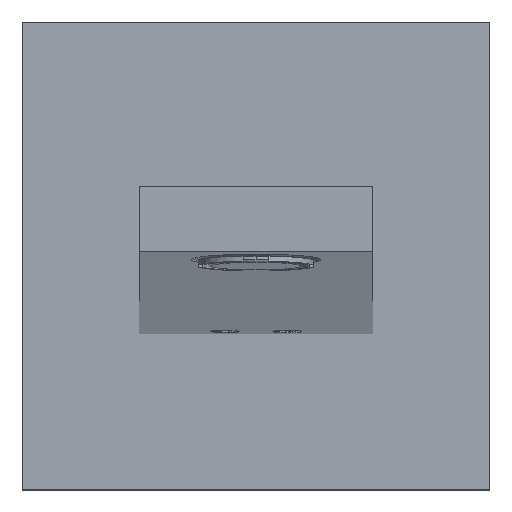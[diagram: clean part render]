
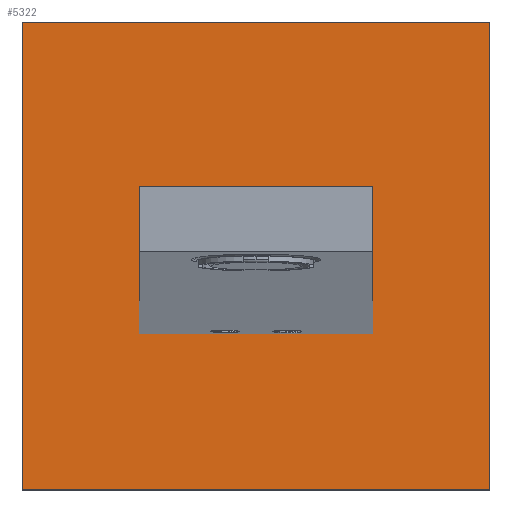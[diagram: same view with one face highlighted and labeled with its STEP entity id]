
A CAD part, top view. The second image highlights one B-rep face of the part: STEP entity #5322.
In plain terms, the highlighted planar face has unit normal (0, 0, 1).
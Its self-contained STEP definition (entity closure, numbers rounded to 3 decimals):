
#115=FACE_BOUND('',#754,.T.);
#116=FACE_BOUND('',#755,.T.);
#207=PLANE('',#5719);
#468=FACE_OUTER_BOUND('',#753,.T.);
#753=EDGE_LOOP('',(#4569,#4570,#4571,#4572));
#754=EDGE_LOOP('',(#4573,#4574));
#755=EDGE_LOOP('',(#4575,#4576));
#1004=CIRCLE('',#5712,8.5);
#1007=CIRCLE('',#5715,8.5);
#1010=CIRCLE('',#5720,2.25);
#1011=CIRCLE('',#5721,2.25);
#1535=LINE('',#20170,#1853);
#1538=LINE('',#20176,#1856);
#1541=LINE('',#20182,#1859);
#1544=LINE('',#20186,#1862);
#1853=VECTOR('',#6636,90.);
#1856=VECTOR('',#6641,90.);
#1859=VECTOR('',#6646,90.);
#1862=VECTOR('',#6651,90.);
#2415=VERTEX_POINT('',#20167);
#2416=VERTEX_POINT('',#20169);
#2418=VERTEX_POINT('',#20175);
#2420=VERTEX_POINT('',#20181);
#2421=VERTEX_POINT('',#20188);
#2422=VERTEX_POINT('',#20189);
#2427=VERTEX_POINT('',#20203);
#2428=VERTEX_POINT('',#20204);
#3159=EDGE_CURVE('',#2415,#2416,#1535,.T.);
#3162=EDGE_CURVE('',#2416,#2418,#1538,.T.);
#3165=EDGE_CURVE('',#2418,#2420,#1541,.T.);
#3168=EDGE_CURVE('',#2420,#2415,#1544,.T.);
#3169=EDGE_CURVE('',#2421,#2422,#1004,.T.);
#3173=EDGE_CURVE('',#2422,#2421,#1007,.T.);
#3176=EDGE_CURVE('',#2427,#2428,#1010,.T.);
#3177=EDGE_CURVE('',#2428,#2427,#1011,.T.);
#4569=ORIENTED_EDGE('',*,*,#3159,.F.);
#4570=ORIENTED_EDGE('',*,*,#3168,.F.);
#4571=ORIENTED_EDGE('',*,*,#3165,.F.);
#4572=ORIENTED_EDGE('',*,*,#3162,.F.);
#4573=ORIENTED_EDGE('',*,*,#3169,.F.);
#4574=ORIENTED_EDGE('',*,*,#3173,.F.);
#4575=ORIENTED_EDGE('',*,*,#3176,.T.);
#4576=ORIENTED_EDGE('',*,*,#3177,.T.);
#5322=ADVANCED_FACE('',(#468,#115,#116),#207,.T.);
#5712=AXIS2_PLACEMENT_3D('',#20190,#6654,#6655);
#5715=AXIS2_PLACEMENT_3D('',#20196,#6661,#6662);
#5719=AXIS2_PLACEMENT_3D('',#20202,#6669,#6670);
#5720=AXIS2_PLACEMENT_3D('',#20205,#6671,#6672);
#5721=AXIS2_PLACEMENT_3D('',#20206,#6673,#6674);
#6636=DIRECTION('',(0.,1.,0.));
#6641=DIRECTION('',(1.,0.,0.));
#6646=DIRECTION('',(0.,-1.,0.));
#6651=DIRECTION('',(-1.,0.,0.));
#6654=DIRECTION('center_axis',(0.,0.,1.));
#6655=DIRECTION('ref_axis',(1.,0.,0.));
#6661=DIRECTION('center_axis',(0.,0.,1.));
#6662=DIRECTION('ref_axis',(1.,0.,0.));
#6669=DIRECTION('center_axis',(0.,0.,1.));
#6670=DIRECTION('ref_axis',(1.,0.,0.));
#6671=DIRECTION('center_axis',(0.,0.,-1.));
#6672=DIRECTION('ref_axis',(-1.,0.,0.));
#6673=DIRECTION('center_axis',(0.,0.,-1.));
#6674=DIRECTION('ref_axis',(-1.,0.,0.));
#20167=CARTESIAN_POINT('',(-45.,-45.,2.));
#20169=CARTESIAN_POINT('',(-45.,45.,2.));
#20170=CARTESIAN_POINT('',(-45.,-45.,2.));
#20175=CARTESIAN_POINT('',(45.,45.,2.));
#20176=CARTESIAN_POINT('',(-45.,45.,2.));
#20181=CARTESIAN_POINT('',(45.,-45.,2.));
#20182=CARTESIAN_POINT('',(45.,45.,2.));
#20186=CARTESIAN_POINT('',(45.,-45.,2.));
#20188=CARTESIAN_POINT('',(-8.5,0.,2.));
#20189=CARTESIAN_POINT('',(-8.483,0.534,2.));
#20190=CARTESIAN_POINT('Origin',(0.,0.,2.));
#20196=CARTESIAN_POINT('Origin',(0.,0.,2.));
#20202=CARTESIAN_POINT('Origin',(0.,-46.8,2.));
#20203=CARTESIAN_POINT('',(11.75,0.,2.));
#20204=CARTESIAN_POINT('',(11.755,0.153,2.));
#20205=CARTESIAN_POINT('Origin',(14.,0.,2.));
#20206=CARTESIAN_POINT('Origin',(14.,0.,2.));
